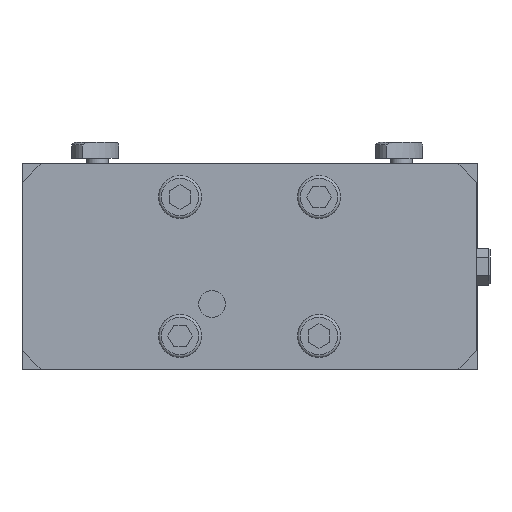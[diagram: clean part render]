
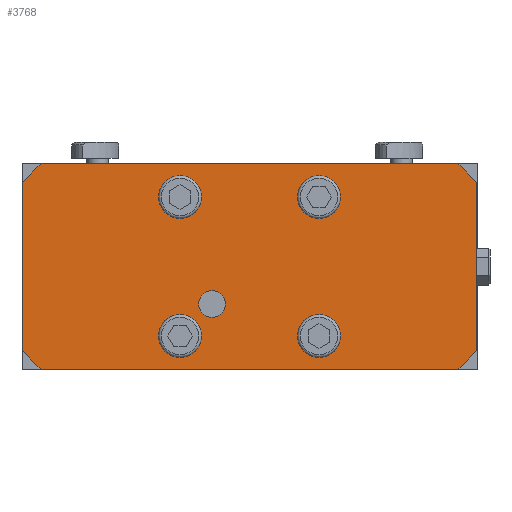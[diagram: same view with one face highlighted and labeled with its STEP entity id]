
A CAD part, front view. The second image highlights one B-rep face of the part: STEP entity #3768.
In plain terms, the highlighted planar face has unit normal (0, -1, 0).
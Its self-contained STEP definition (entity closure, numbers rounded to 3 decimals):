
#379 = VECTOR ( 'NONE', #28398, 1000. ) ;
#406 = AXIS2_PLACEMENT_3D ( 'NONE', #9581, #1559, #25407 ) ;
#538 = VERTEX_POINT ( 'NONE', #18771 ) ;
#1333 = CARTESIAN_POINT ( 'NONE',  ( 26., 0., 26. ) ) ;
#1439 = EDGE_LOOP ( 'NONE', ( #21889 ) ) ;
#1472 = CARTESIAN_POINT ( 'NONE',  ( 85., 0., 31.5 ) ) ;
#1559 = DIRECTION ( 'NONE',  ( 0., -1., 0. ) ) ;
#1694 = CARTESIAN_POINT ( 'NONE',  ( 85., 0., -38.5 ) ) ;
#1836 = CARTESIAN_POINT ( 'NONE',  ( -26., 0., 26. ) ) ;
#2155 = EDGE_CURVE ( 'NONE', #12474, #12474, #15148, .T. ) ;
#2172 = CARTESIAN_POINT ( 'NONE',  ( -85., 0., -31.5 ) ) ;
#3106 = VECTOR ( 'NONE', #27767, 1000. ) ;
#3303 = EDGE_CURVE ( 'NONE', #33037, #33037, #18363, .T. ) ;
#3684 = AXIS2_PLACEMENT_3D ( 'NONE', #25510, #33299, #10010 ) ;
#3709 = EDGE_CURVE ( 'NONE', #29532, #15117, #31803, .T. ) ;
#3728 = VERTEX_POINT ( 'NONE', #1472 ) ;
#3768 = ADVANCED_FACE ( 'NONE', ( #32794, #21896, #24787, #11888, #22228, #9327 ), #17325, .F. ) ;
#3892 = LINE ( 'NONE', #1694, #21651 ) ;
#3976 = ORIENTED_EDGE ( 'NONE', *, *, #30213, .T. ) ;
#4183 = VERTEX_POINT ( 'NONE', #22952 ) ;
#4426 = EDGE_CURVE ( 'NONE', #538, #538, #27402, .T. ) ;
#4445 = LINE ( 'NONE', #20139, #33539 ) ;
#5309 = CARTESIAN_POINT ( 'NONE',  ( 78., 0., -38.5 ) ) ;
#5513 = DIRECTION ( 'NONE',  ( 0.707, 0., 0.707 ) ) ;
#5838 = LINE ( 'NONE', #21319, #10979 ) ;
#5925 = CARTESIAN_POINT ( 'NONE',  ( 26., 0., -26. ) ) ;
#6496 = CARTESIAN_POINT ( 'NONE',  ( 85., 0., -31.5 ) ) ;
#6744 = VERTEX_POINT ( 'NONE', #5309 ) ;
#6775 = CIRCLE ( 'NONE', #27390, 6. ) ;
#6824 = CARTESIAN_POINT ( 'NONE',  ( -78., 0., -38.5 ) ) ;
#7803 = CARTESIAN_POINT ( 'NONE',  ( -26., 0., 20. ) ) ;
#8704 = DIRECTION ( 'NONE',  ( 0., 0., -1. ) ) ;
#8989 = AXIS2_PLACEMENT_3D ( 'NONE', #1333, #27051, #17821 ) ;
#9327 = FACE_OUTER_BOUND ( 'NONE', #33187, .T. ) ;
#9471 = EDGE_LOOP ( 'NONE', ( #30900 ) ) ;
#9581 = CARTESIAN_POINT ( 'NONE',  ( -14., 0., -14. ) ) ;
#10010 = DIRECTION ( 'NONE',  ( 1., 0., 0. ) ) ;
#10979 = VECTOR ( 'NONE', #5513, 1000. ) ;
#11154 = CARTESIAN_POINT ( 'NONE',  ( 85., 0., -38.5 ) ) ;
#11888 = FACE_BOUND ( 'NONE', #9471, .T. ) ;
#12120 = DIRECTION ( 'NONE',  ( -1., 0., 0. ) ) ;
#12474 = VERTEX_POINT ( 'NONE', #19971 ) ;
#12787 = VERTEX_POINT ( 'NONE', #2172 ) ;
#13547 = ORIENTED_EDGE ( 'NONE', *, *, #20501, .T. ) ;
#14037 = AXIS2_PLACEMENT_3D ( 'NONE', #11154, #21184, #16445 ) ;
#14099 = DIRECTION ( 'NONE',  ( 0., -1., 0. ) ) ;
#14403 = LINE ( 'NONE', #16963, #15660 ) ;
#15117 = VERTEX_POINT ( 'NONE', #23585 ) ;
#15132 = EDGE_LOOP ( 'NONE', ( #16158 ) ) ;
#15148 = CIRCLE ( 'NONE', #3684, 6. ) ;
#15660 = VECTOR ( 'NONE', #33103, 1000. ) ;
#16158 = ORIENTED_EDGE ( 'NONE', *, *, #3303, .F. ) ;
#16339 = CARTESIAN_POINT ( 'NONE',  ( 85., 0., 38.5 ) ) ;
#16445 = DIRECTION ( 'NONE',  ( 0., 0., 1. ) ) ;
#16825 = EDGE_CURVE ( 'NONE', #12787, #22754, #14403, .T. ) ;
#16963 = CARTESIAN_POINT ( 'NONE',  ( -78., 0., -38.5 ) ) ;
#17321 = VECTOR ( 'NONE', #27022, 1000. ) ;
#17325 = PLANE ( 'NONE',  #14037 ) ;
#17821 = DIRECTION ( 'NONE',  ( -1., 0., 0. ) ) ;
#17909 = EDGE_CURVE ( 'NONE', #4183, #12787, #20917, .T. ) ;
#17940 = ORIENTED_EDGE ( 'NONE', *, *, #28757, .F. ) ;
#18071 = AXIS2_PLACEMENT_3D ( 'NONE', #5925, #14099, #19083 ) ;
#18363 = CIRCLE ( 'NONE', #406, 5. ) ;
#18478 = EDGE_CURVE ( 'NONE', #6744, #22754, #3892, .T. ) ;
#18771 = CARTESIAN_POINT ( 'NONE',  ( 20., 0., 26. ) ) ;
#18785 = ORIENTED_EDGE ( 'NONE', *, *, #18478, .F. ) ;
#19083 = DIRECTION ( 'NONE',  ( 0., 0., 1. ) ) ;
#19366 = ORIENTED_EDGE ( 'NONE', *, *, #30222, .T. ) ;
#19815 = CARTESIAN_POINT ( 'NONE',  ( -78., 0., 38.5 ) ) ;
#19971 = CARTESIAN_POINT ( 'NONE',  ( -20., 0., -26. ) ) ;
#20139 = CARTESIAN_POINT ( 'NONE',  ( 85., 0., 31.5 ) ) ;
#20501 = EDGE_CURVE ( 'NONE', #6744, #22713, #5838, .T. ) ;
#20917 = LINE ( 'NONE', #25860, #379 ) ;
#21184 = DIRECTION ( 'NONE',  ( 0., 1., 0. ) ) ;
#21319 = CARTESIAN_POINT ( 'NONE',  ( 85., 0., -31.5 ) ) ;
#21651 = VECTOR ( 'NONE', #12120, 1000. ) ;
#21889 = ORIENTED_EDGE ( 'NONE', *, *, #4426, .F. ) ;
#21896 = FACE_BOUND ( 'NONE', #1439, .T. ) ;
#22228 = FACE_BOUND ( 'NONE', #27940, .T. ) ;
#22713 = VERTEX_POINT ( 'NONE', #6496 ) ;
#22753 = DIRECTION ( 'NONE',  ( 0., -1., 0. ) ) ;
#22754 = VERTEX_POINT ( 'NONE', #6824 ) ;
#22910 = VERTEX_POINT ( 'NONE', #7803 ) ;
#22952 = CARTESIAN_POINT ( 'NONE',  ( -85., 0., 31.5 ) ) ;
#23456 = ORIENTED_EDGE ( 'NONE', *, *, #16825, .T. ) ;
#23585 = CARTESIAN_POINT ( 'NONE',  ( -78., 0., 38.5 ) ) ;
#24435 = VECTOR ( 'NONE', #8704, 1000. ) ;
#24536 = CIRCLE ( 'NONE', #18071, 6. ) ;
#24787 = FACE_BOUND ( 'NONE', #28492, .T. ) ;
#24868 = CARTESIAN_POINT ( 'NONE',  ( 78., 0., 38.5 ) ) ;
#25342 = VERTEX_POINT ( 'NONE', #33313 ) ;
#25407 = DIRECTION ( 'NONE',  ( 0., 0., -1. ) ) ;
#25459 = ORIENTED_EDGE ( 'NONE', *, *, #26105, .F. ) ;
#25510 = CARTESIAN_POINT ( 'NONE',  ( -26., 0., -26. ) ) ;
#25860 = CARTESIAN_POINT ( 'NONE',  ( -85., 0., -38.5 ) ) ;
#26105 = EDGE_CURVE ( 'NONE', #25342, #25342, #24536, .T. ) ;
#26478 = ORIENTED_EDGE ( 'NONE', *, *, #32956, .F. ) ;
#26646 = ORIENTED_EDGE ( 'NONE', *, *, #17909, .T. ) ;
#27022 = DIRECTION ( 'NONE',  ( -1., 0., 0. ) ) ;
#27051 = DIRECTION ( 'NONE',  ( 0., -1., 0. ) ) ;
#27221 = CARTESIAN_POINT ( 'NONE',  ( 85., 0., -38.5 ) ) ;
#27390 = AXIS2_PLACEMENT_3D ( 'NONE', #1836, #22753, #28201 ) ;
#27402 = CIRCLE ( 'NONE', #8989, 6. ) ;
#27767 = DIRECTION ( 'NONE',  ( -0.707, 0., -0.707 ) ) ;
#27940 = EDGE_LOOP ( 'NONE', ( #17940 ) ) ;
#28201 = DIRECTION ( 'NONE',  ( 0., 0., -1. ) ) ;
#28398 = DIRECTION ( 'NONE',  ( 0., 0., -1. ) ) ;
#28492 = EDGE_LOOP ( 'NONE', ( #25459 ) ) ;
#28757 = EDGE_CURVE ( 'NONE', #22910, #22910, #6775, .T. ) ;
#29532 = VERTEX_POINT ( 'NONE', #24868 ) ;
#30213 = EDGE_CURVE ( 'NONE', #15117, #4183, #32718, .T. ) ;
#30222 = EDGE_CURVE ( 'NONE', #3728, #29532, #4445, .T. ) ;
#30317 = DIRECTION ( 'NONE',  ( -0.707, 0., 0.707 ) ) ;
#30493 = CARTESIAN_POINT ( 'NONE',  ( -14., 0., -19. ) ) ;
#30900 = ORIENTED_EDGE ( 'NONE', *, *, #2155, .F. ) ;
#31803 = LINE ( 'NONE', #16339, #17321 ) ;
#32245 = ORIENTED_EDGE ( 'NONE', *, *, #3709, .T. ) ;
#32343 = LINE ( 'NONE', #27221, #24435 ) ;
#32718 = LINE ( 'NONE', #19815, #3106 ) ;
#32794 = FACE_BOUND ( 'NONE', #15132, .T. ) ;
#32956 = EDGE_CURVE ( 'NONE', #3728, #22713, #32343, .T. ) ;
#33037 = VERTEX_POINT ( 'NONE', #30493 ) ;
#33103 = DIRECTION ( 'NONE',  ( 0.707, 0., -0.707 ) ) ;
#33187 = EDGE_LOOP ( 'NONE', ( #32245, #3976, #26646, #23456, #18785, #13547, #26478, #19366 ) ) ;
#33299 = DIRECTION ( 'NONE',  ( 0., -1., 0. ) ) ;
#33313 = CARTESIAN_POINT ( 'NONE',  ( 26., 0., -20. ) ) ;
#33539 = VECTOR ( 'NONE', #30317, 1000. ) ;
